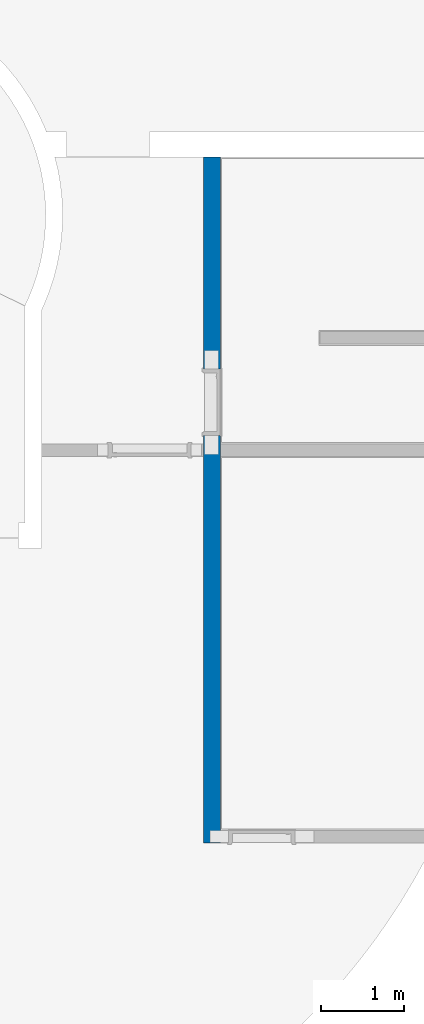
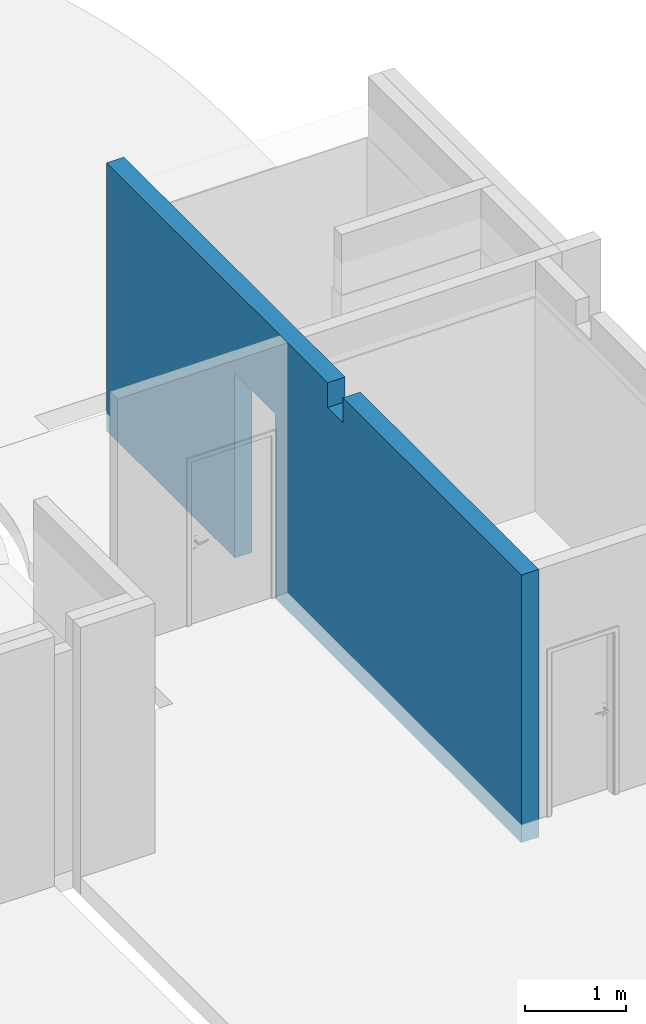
# One storey, part 20 of 21: 1 wall, 1 opening.
"""IFC4 building model written with IfcOpenShell, lengths in millimetres."""

from ifc_helpers import new_model, entity, si_unit, converted_unit, derived_unit, direction, frame, origin_with_axes, place, context, subcontext, project, spatial, polygons, material, constituent, constituent_set, type_object, element, save


model = new_model("IFC4")

# Units and contexts
model_context = context("Model", 3, precision=0.01, world=origin_with_axes(), true_north=direction((0.0, 1.0)))
body_context = subcontext(model_context, "Body", "Model", "MODEL_VIEW")
ifc_project = project(units=[si_unit("LENGTHUNIT", "METRE", prefix="MILLI"), si_unit("AREAUNIT", "SQUARE_METRE"), si_unit("VOLUMEUNIT", "CUBIC_METRE"), converted_unit("PLANEANGLEUNIT", "DEGREE", entity("IfcPlaneAngleMeasure", 0.0174532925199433), si_unit("PLANEANGLEUNIT", "RADIAN"), dimensions=[0, 0, 0, 0, 0, 0, 0]), converted_unit("TIMEUNIT", "Year", entity("IfcTimeMeasure", 31557600.0), si_unit("TIMEUNIT", "SECOND"), dimensions=[0, 0, 1, 0, 0, 0, 0]), si_unit("MASSUNIT", "GRAM", prefix="KILO"), si_unit("THERMODYNAMICTEMPERATUREUNIT", "DEGREE_CELSIUS"), si_unit("LUMINOUSINTENSITYUNIT", "LUMEN"), si_unit("ENERGYUNIT", "JOULE", prefix="MEGA"), derived_unit("THERMALCONDUCTANCEUNIT", [(si_unit("POWERUNIT", "WATT"), 1), (si_unit("LENGTHUNIT", "METRE"), -1), (si_unit("THERMODYNAMICTEMPERATUREUNIT", "KELVIN"), -1)]), derived_unit("SPECIFICHEATCAPACITYUNIT", [(si_unit("ENERGYUNIT", "JOULE"), 1), (si_unit("MASSUNIT", "GRAM", prefix="KILO"), -1), (si_unit("THERMODYNAMICTEMPERATUREUNIT", "KELVIN"), -1)]), derived_unit("MASSDENSITYUNIT", [(si_unit("MASSUNIT", "GRAM", prefix="KILO"), 1), (si_unit("VOLUMEUNIT", "CUBIC_METRE"), -1)])], contexts=[model_context])

# Site, building, storey
site_placement = place(None, origin_with_axes())
site = spatial("IfcSite", under=ifc_project, at=site_placement, Name="Exteriér", CompositionType="ELEMENT")
building_placement = place(site_placement, origin_with_axes())
building = spatial("IfcBuilding", under=site, at=building_placement, Name="Univerzitní lezecké centrum", CompositionType="ELEMENT")
storey_placement = place(building_placement, frame((0.0, 0.0, -3350.0), z_axis=(0.0, 0.0, 1.0), x_axis=(1.0, 0.0, 0.0)))
storey = spatial("IfcBuildingStorey", under=building, at=storey_placement, Name="1.PP", CompositionType="ELEMENT", Elevation=-3350.0)

# Wall, opening
ifc_material = material(Name="Keramické tvárnice nenosné tl 200 mm")
ifc_constituent = constituent(ifc_material, Name="Keramické tvárnice nenosné tl 200 mm")
ifc_constituent_set = constituent_set(constituents=[ifc_constituent], Name="!Vnitřní keramická stěna 200 mm - nenosná*")
wall_type = type_object("IfcWallType", Name="!Vnitřní keramická stěna 200 mm - nenosná* 200", PredefinedType="NOTDEFINED")
wall_placement = place(storey_placement, frame((6850.112166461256, 4699.99999999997, -220.0000000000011), z_axis=(0.0, 0.0, 1.0), x_axis=(0.0, -1.0, 0.0)))
wall = element("IfcWall", 1, at=wall_placement, inside=storey, type_object=wall_type, material=ifc_constituent_set, Name="St06*", PredefinedType="NOTDEFINED", context=body_context, shape_type="Tessellation", body=[
    polygons([(2850.000052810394, 199.999980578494, 0.500000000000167), (2850.000052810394, 199.999980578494, 0.0), (299.9999999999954, 200.0000000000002, 0.0), (299.9999999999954, 200.0000000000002, 3250.0), (4699.999999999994, 200.0000000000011, 3250.000000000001), (4699.999999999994, 200.0000000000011, 2950.000000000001), (4999.999999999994, 200.0000000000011, 2950.000000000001), (4999.999999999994, 200.0000000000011, 3250.000000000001), (8550.000000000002, 200.0000000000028, 3250.0), (8550.000000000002, 200.0000000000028, 0.0), (3649.999965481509, 199.9999805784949, 0.0), (3649.999965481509, 199.9999805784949, 0.500000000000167), (3650.0, 200.0000000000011, 220.0000000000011), (3650.0, 200.0000000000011, 2240.000000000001), (2850.0, 200.0000000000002, 2240.000000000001), (2850.0, 200.0000000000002, 220.0000000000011), (2850.000052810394, 2.410715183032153e-06, 0.500000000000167), (2850.000052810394, 2.410715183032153e-06, 0.0), (299.9999999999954, 0.0, 0.0), (299.9999999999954, 0.0, 3250.0), (4699.999999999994, 0.0, 3250.000000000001), (4699.999999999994, 0.0, 2950.000000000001), (4999.999999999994, 0.0, 2950.000000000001), (4999.999999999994, 0.0, 3250.000000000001), (8550.000000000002, 0.0, 3250.0), (8550.000000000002, 0.0, 0.0), (3649.999965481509, 2.410716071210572e-06, 0.0), (3649.999965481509, 2.410716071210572e-06, 0.500000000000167), (3650.0, 0.0, 220.0000000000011), (3650.0, 0.0, 2240.000000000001), (2850.0, 0.0, 2240.000000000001), (2850.0, 0.0, 220.0000000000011)], [[[1, 2, 3, 4, 5, 6, 7, 8, 9, 10, 11, 12, 13, 14, 15, 16]], [[2, 1, 17, 18]], [[2, 18, 19, 3]], [[20, 4, 3, 19]], [[20, 21, 5, 4]], [[22, 6, 5, 21]], [[23, 7, 6, 22]], [[23, 24, 8, 7]], [[9, 8, 24, 25]], [[25, 26, 10, 9]], [[27, 11, 10, 26]], [[28, 12, 11, 27]], [[12, 28, 29, 13]], [[29, 30, 14, 13]], [[30, 31, 15, 14]], [[31, 32, 16, 15]], [[17, 1, 16, 32]], [[18, 17, 32, 31, 30, 29, 28, 27, 26, 25, 24, 23, 22, 21, 20, 19]]], closed=True),
    polygons([(3875.0, 179.9999989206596, 2246.000000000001), (3875.0, 10.00000107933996, 2246.000000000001), (3875.0, 10.00000107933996, 2483.6644745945), (3875.0, 79.99998239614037, 2483.664479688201), (3875.0, 80.00000000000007, 2484.000000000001), (3875.0, 110.0000000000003, 2484.000000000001), (3875.0, 110.0000000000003, 2483.664479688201), (3875.0, 179.9999989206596, 2483.6644745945), (2625.0, 179.9999989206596, 2246.000000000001), (2625.0, 10.00000107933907, 2246.000000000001), (2625.0, 10.00000107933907, 2483.6644745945), (2625.0, 79.99998239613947, 2483.664479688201), (2625.0, 79.99999999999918, 2484.000000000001), (2625.0, 109.9999999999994, 2484.000000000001), (2625.0, 109.9999999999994, 2483.664479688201), (2625.0, 179.9999989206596, 2483.6644745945)], [[[1, 2, 3, 4, 5, 6, 7, 8]], [[1, 9, 10, 2]], [[2, 10, 11, 3]], [[12, 4, 3, 11]], [[4, 12, 13, 5]], [[14, 6, 5, 13]], [[14, 15, 7, 6]], [[8, 7, 15, 16]], [[16, 9, 1, 8]], [[13, 12, 11, 10, 9, 16, 15, 14]]], closed=True),
])
opening_placement = place(wall_placement, frame((3250.000000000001, 0.0, 220.0000000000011), z_axis=(0.0, 0.0, 1.0), x_axis=(1.0, 0.0, 0.0)))
element("IfcOpeningElement", 2, at=opening_placement, cuts=wall, Name="D20", context=body_context, identifier="Reference", shape_type="Tessellation", body=[
    polygons([(-400.0000000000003, 201.0000000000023, 0.0), (-400.0000000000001, 201.0000000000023, 2020.0), (399.9999999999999, 201.0000000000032, 2020.0), (399.9999999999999, 201.0000000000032, 0.0), (-411.9999999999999, 201.0000000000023, 0.0), (-411.9999999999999, 201.0000000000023, 2032.0), (411.9999999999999, 201.0000000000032, 2032.0), (411.9999999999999, 201.0000000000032, 0.0), (-400.0000000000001, 200.0000000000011, 0.0), (399.9999999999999, 200.000000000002, 0.0), (399.9999999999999, 0.0, 0.0), (399.9999999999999, -1.000000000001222, 0.0), (-400.0000000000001, -1.00000000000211, 0.0), (-400.0000000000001, 0.0, 0.0), (-411.9999999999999, 200.0000000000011, 0.0), (-411.9999999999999, 200.0000000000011, 2032.0), (411.9999999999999, 200.000000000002, 2032.0), (411.9999999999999, 200.000000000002, 0.0), (399.9999999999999, 200.000000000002, 2020.0), (399.9999999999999, 0.0, 2020.0), (411.9999999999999, 0.0, 0.0), (411.9999999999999, -1.000000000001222, 0.0), (411.9999999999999, -1.000000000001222, 2032.0), (-412.0000000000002, -1.00000000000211, 2032.0), (-412.0000000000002, -1.00000000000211, 0.0), (-412.0000000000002, 0.0, 0.0), (-400.0000000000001, 200.0000000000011, 2020.0), (-400.0000000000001, 0.0, 2020.0), (-412.0000000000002, 0.0, 2032.0), (411.9999999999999, 0.0, 2032.0)], [[[1, 2, 3, 4]], [[3, 2, 1, 5, 6, 7, 8, 4]], [[9, 1, 4, 10, 11, 12, 13, 14]], [[1, 9, 15, 5]], [[15, 16, 6, 5]], [[16, 17, 7, 6]], [[17, 18, 8, 7]], [[10, 4, 8, 18]], [[10, 19, 20, 11]], [[12, 11, 21, 22]], [[13, 12, 22, 23, 24, 25]], [[14, 13, 25, 26]], [[27, 9, 14, 28]], [[9, 27, 19, 10, 18, 17, 16, 15]], [[19, 27, 28, 20]], [[20, 28, 14, 26, 29, 30, 21, 11]], [[21, 30, 23, 22]], [[30, 29, 24, 23]], [[29, 26, 25, 24]]], closed=True),
])

save(model, "model.ifc")
